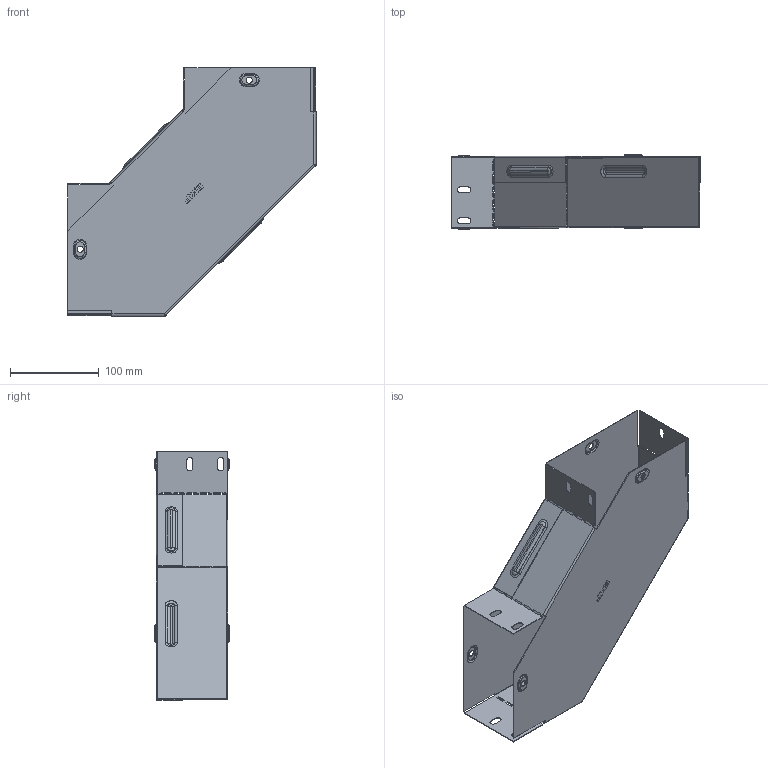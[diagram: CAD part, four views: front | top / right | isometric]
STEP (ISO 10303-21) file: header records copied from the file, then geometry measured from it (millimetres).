
FILE_DESCRIPTION (( 'STEP AP214' ), '1' );
FILE_NAME ('g9080150_捘.STEP', '2019-06-10T09:53:07', ( '砐錪賧瘔蠈錪 Windows' ), ( '' ), 'SwSTEP 2.0', 'SolidWorks 2018', '' );
FILE_SCHEMA (( 'AUTOMOTIVE_DESIGN' ));
Length unit declared in the file: millimetre
Products named in the file (1): g9080150_捘
Bounding box: 280.8 x 83.8 x 280.8 mm (x, y, z)
Volume: 129577.9 mm3; surface area: 327211.8 mm2
Topology: 2 solids, 2 shells, 564 faces, 1560 edges, 1008 vertices
Faces by surface type: plane 328, cylinder 146, torus 64, bspline 26
Entity records: 19289 total; most frequent: CARTESIAN_POINT 4609, ORIENTED_EDGE 3120, DIRECTION 2946, EDGE_CURVE 1560, LINE 1124, VECTOR 1124, VERTEX_POINT 1008, AXIS2_PLACEMENT_3D 911
